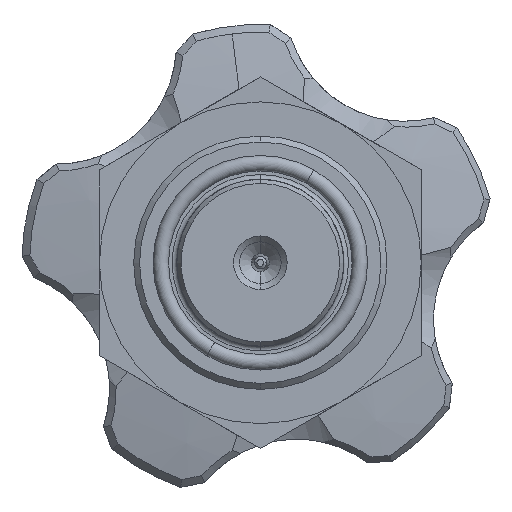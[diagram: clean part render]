
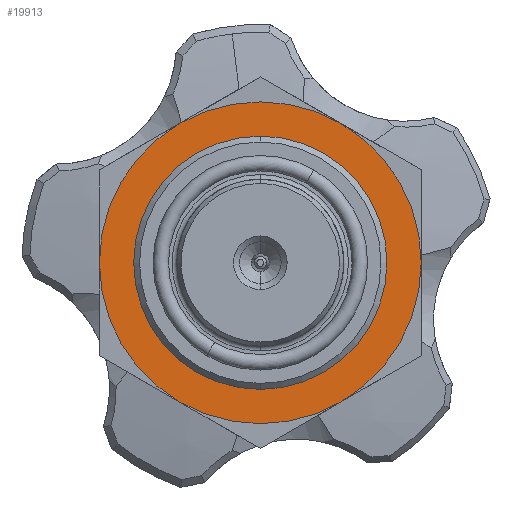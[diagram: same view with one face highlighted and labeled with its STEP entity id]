
A CAD part, front view. The second image highlights one B-rep face of the part: STEP entity #19913.
In plain terms, the highlighted planar face has unit normal (0, -1, 0).
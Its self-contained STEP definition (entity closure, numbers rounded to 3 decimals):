
#2140 = DIRECTION ( 'NONE',  ( 0., -1., 0. ) ) ;
#2255 = EDGE_CURVE ( 'NONE', #11416, #17259, #23784, .T. ) ;
#2506 = ORIENTED_EDGE ( 'NONE', *, *, #12118, .F. ) ;
#3338 = CARTESIAN_POINT ( 'NONE',  ( 0., -25., 0. ) ) ;
#3391 = CARTESIAN_POINT ( 'NONE',  ( 0., -25., 0. ) ) ;
#3868 = PLANE ( 'NONE',  #10647 ) ;
#4931 = EDGE_CURVE ( 'NONE', #10508, #32126, #34544, .T. ) ;
#6157 = DIRECTION ( 'NONE',  ( 0., 0., -1. ) ) ;
#6219 = DIRECTION ( 'NONE',  ( 0., 0., -1. ) ) ;
#9495 = AXIS2_PLACEMENT_3D ( 'NONE', #3391, #23123, #6219 ) ;
#10382 = FACE_OUTER_BOUND ( 'NONE', #26651, .T. ) ;
#10508 = VERTEX_POINT ( 'NONE', #10848 ) ;
#10647 = AXIS2_PLACEMENT_3D ( 'NONE', #12444, #32197, #15298 ) ;
#10848 = CARTESIAN_POINT ( 'NONE',  ( 0., -25., 10. ) ) ;
#11416 = VERTEX_POINT ( 'NONE', #23057 ) ;
#12118 = EDGE_CURVE ( 'NONE', #32126, #10508, #13819, .T. ) ;
#12444 = CARTESIAN_POINT ( 'NONE',  ( 0., -25., -31.843 ) ) ;
#13043 = AXIS2_PLACEMENT_3D ( 'NONE', #32712, #15823, #35526 ) ;
#13819 = CIRCLE ( 'NONE', #15361, 10. ) ;
#15256 = ORIENTED_EDGE ( 'NONE', *, *, #4931, .F. ) ;
#15298 = DIRECTION ( 'NONE',  ( 0., 0., 1. ) ) ;
#15361 = AXIS2_PLACEMENT_3D ( 'NONE', #18999, #2140, #21862 ) ;
#15816 = ORIENTED_EDGE ( 'NONE', *, *, #2255, .T. ) ;
#15823 = DIRECTION ( 'NONE',  ( 0., -1., 0. ) ) ;
#16242 = AXIS2_PLACEMENT_3D ( 'NONE', #3338, #23068, #6157 ) ;
#16278 = ORIENTED_EDGE ( 'NONE', *, *, #19709, .T. ) ;
#17259 = VERTEX_POINT ( 'NONE', #31912 ) ;
#17930 = CIRCLE ( 'NONE', #9495, 13.5 ) ;
#18999 = CARTESIAN_POINT ( 'NONE',  ( 0., -25., 0. ) ) ;
#19709 = EDGE_CURVE ( 'NONE', #17259, #11416, #17930, .T. ) ;
#19913 = ADVANCED_FACE ( 'NONE', ( #32018, #10382 ), #3868, .F. ) ;
#21646 = CARTESIAN_POINT ( 'NONE',  ( 0., -25., -10. ) ) ;
#21862 = DIRECTION ( 'NONE',  ( 0., 0., -1. ) ) ;
#23057 = CARTESIAN_POINT ( 'NONE',  ( 0., -25., 13.5 ) ) ;
#23068 = DIRECTION ( 'NONE',  ( 0., -1., 0. ) ) ;
#23123 = DIRECTION ( 'NONE',  ( 0., -1., 0. ) ) ;
#23784 = CIRCLE ( 'NONE', #13043, 13.5 ) ;
#24131 = EDGE_LOOP ( 'NONE', ( #15256, #2506 ) ) ;
#26651 = EDGE_LOOP ( 'NONE', ( #16278, #15816 ) ) ;
#31912 = CARTESIAN_POINT ( 'NONE',  ( 0., -25., -13.5 ) ) ;
#32018 = FACE_BOUND ( 'NONE', #24131, .T. ) ;
#32126 = VERTEX_POINT ( 'NONE', #21646 ) ;
#32197 = DIRECTION ( 'NONE',  ( 0., 1., 0. ) ) ;
#32712 = CARTESIAN_POINT ( 'NONE',  ( 0., -25., 0. ) ) ;
#34544 = CIRCLE ( 'NONE', #16242, 10. ) ;
#35526 = DIRECTION ( 'NONE',  ( 0., 0., -1. ) ) ;
